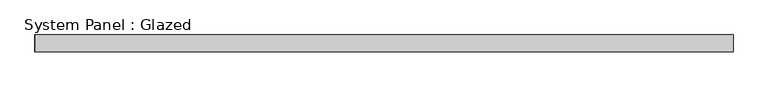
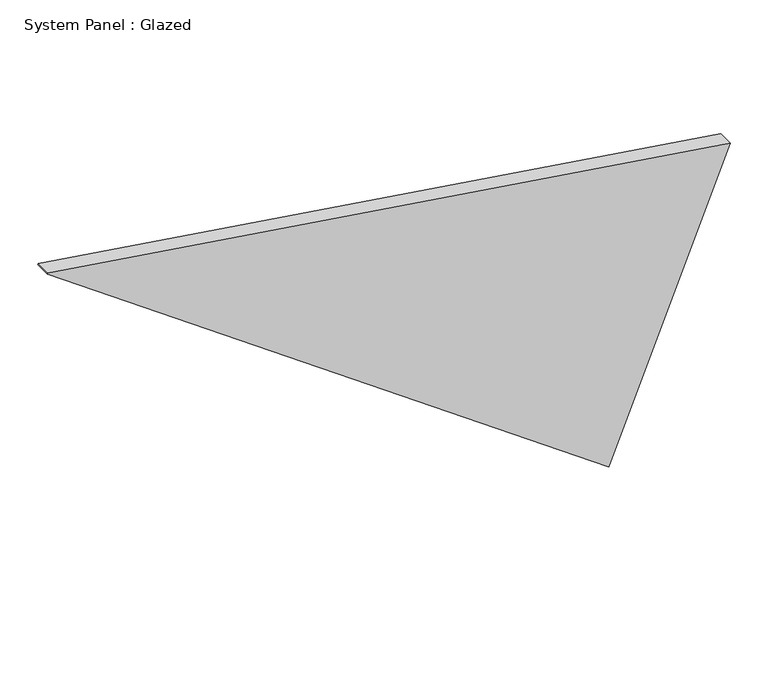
"""IFC4 building model written with IfcOpenShell, lengths in millimetres: plate geometry, System Panel : Glazed."""

from ifc_helpers import new_model, si_unit, frame, origin, place, context, project, spatial, polyline, outline, extrude, source, transform, mapped, element, save


def system_panel_glazed_27f85530(model_context):
    return source(origin(), model_context, "Body", "SweptSolid", [
        extrude(outline(polyline([(0.0, 335.8243223), (458.0093049, 520.6440207), (612.3686015, -520.1959543), (611.2582298, -520.6440207), (0.0, 335.8243223)])), frame((0.0, -44.45, 0.0), z_axis=(0.0, 1.0, 0.0), x_axis=(0.0, 0.0, 1.0)), (0.0, 0.0, 1.0), 25.4),
    ])


if __name__ == "__main__":
    model = new_model("IFC4")
    model_context = context("Model", 3, world=origin())
    ifc_project = project(units=[si_unit("LENGTHUNIT", "METRE", prefix="MILLI")], contexts=[model_context])
    site = spatial("IfcSite", under=ifc_project)
    building = spatial("IfcBuilding", under=site)
    placement = place(None, origin())
    system_panel_glazed_shape = system_panel_glazed_27f85530(model_context)
    element("IfcPlate", 1, ObjectType="System Panel : Glazed", at=placement, inside=building, context=model_context, shape_type="MappedRepresentation", body=[
        mapped(system_panel_glazed_shape, transform((0.0, 0.0, 0.0), x_axis=(1.0, 0.0, 0.0), y_axis=(0.0, 1.0, 0.0), z_axis=(0.0, 0.0, 1.0))),
    ])
    save(model, "model.ifc")
